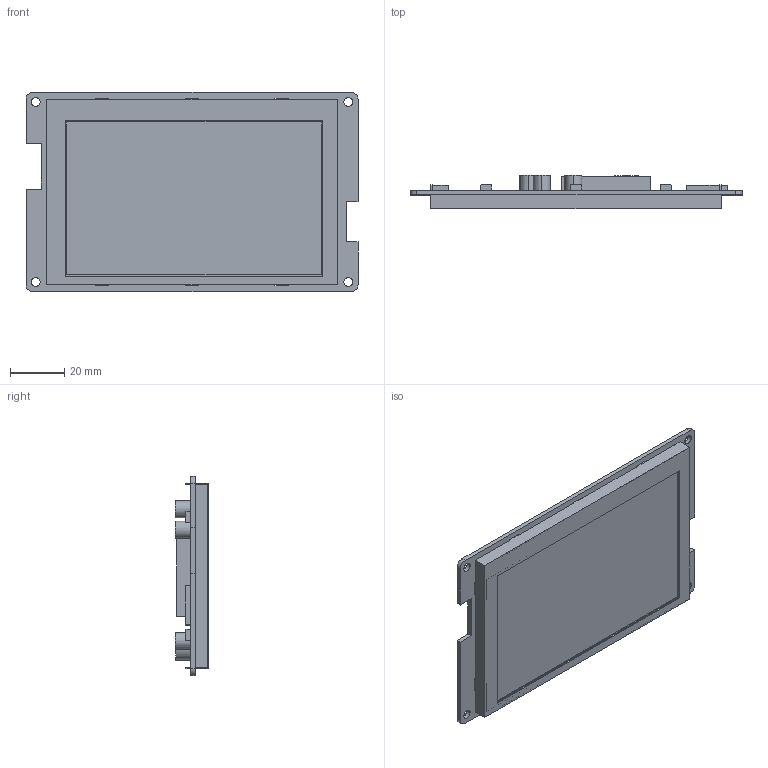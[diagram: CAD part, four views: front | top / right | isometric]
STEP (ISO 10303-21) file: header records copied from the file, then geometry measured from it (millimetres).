
FILE_DESCRIPTION((''),'2;1');
FILE_NAME('DMG80480C043-01WTR_ASM','2022-03-21T',('Administrator'),(''),'PRO/ENGINEER BY PARAMETRIC TECHNOLOGY CORPORATION, 2011310','PRO/ENGINEER BY PARAMETRIC TECHNOLOGY CORPORATION, 2011310','');
FILE_SCHEMA(('CONFIG_CONTROL_DESIGN'));
Length unit declared in the file: millimetre
Products named in the file (5): TK043000_18; 043IPS_7; PCB-20190816_2; ASM0001_ASM_6_ASM; DMG80480C043-01WTR_ASM
Assembly tree (4 placements, depth 3):
  DMG80480C043-01WTR_ASM
    ASM0001_ASM_6_ASM
      TK043000_18
      043IPS_7
      PCB-20190816_2
Bounding box: 121.92 x 12.3 x 73.15 mm (x, y, z)
Volume: 41005.3 mm3; surface area: 42346.6 mm2
Topology: 3 solids, 3 shells, 235 faces, 657 edges, 438 vertices
Faces by surface type: plane 180, cylinder 55
Entity records: 7712 total; most frequent: CARTESIAN_POINT 1342, ORIENTED_EDGE 1314, DIRECTION 1261, EDGE_CURVE 657, VECTOR 547, LINE 547, VERTEX_POINT 438, AXIS2_PLACEMENT_3D 357
